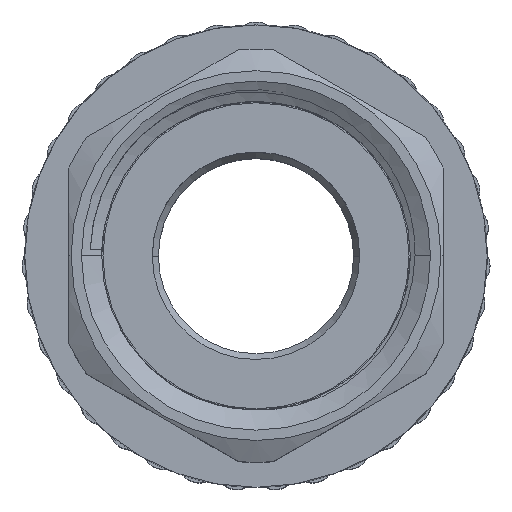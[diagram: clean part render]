
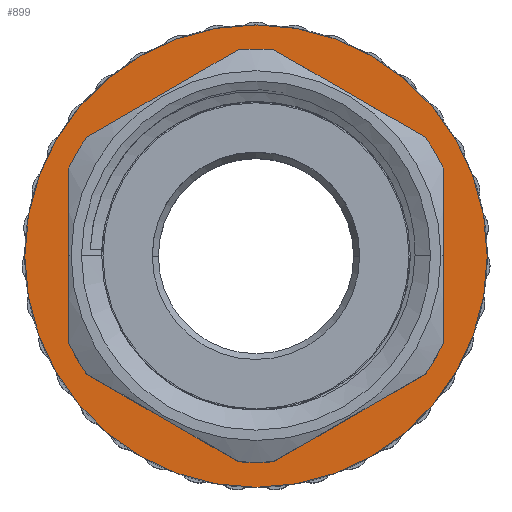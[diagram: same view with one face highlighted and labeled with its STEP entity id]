
A CAD part, top view. The second image highlights one B-rep face of the part: STEP entity #899.
In plain terms, the highlighted planar face has unit normal (0, 0, 1).
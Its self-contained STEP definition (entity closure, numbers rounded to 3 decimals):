
#820 = CARTESIAN_POINT ( 'NONE',  ( 0., 0., 0. ) ) ;
#899 = ADVANCED_FACE ( 'NONE', ( #1398, #10390 ), #7141, .F. ) ;
#939 = AXIS2_PLACEMENT_3D ( 'NONE', #8788, #1267, #3091 ) ;
#1267 = DIRECTION ( 'NONE',  ( 0., 0., 1. ) ) ;
#1309 = VERTEX_POINT ( 'NONE', #6572 ) ;
#1398 = FACE_BOUND ( 'NONE', #6413, .T. ) ;
#1561 = CARTESIAN_POINT ( 'NONE',  ( -22.85, 0., 0. ) ) ;
#2005 = CARTESIAN_POINT ( 'NONE',  ( 0., 22.85, 0. ) ) ;
#2048 = ORIENTED_EDGE ( 'NONE', *, *, #2439, .F. ) ;
#2065 = DIRECTION ( 'NONE',  ( 0., 0., -1. ) ) ;
#2196 = DIRECTION ( 'NONE',  ( 0., 0., 1. ) ) ;
#2439 = EDGE_CURVE ( 'NONE', #1309, #6585, #6550, .T. ) ;
#2848 = DIRECTION ( 'NONE',  ( 0., 0., 1. ) ) ;
#3091 = DIRECTION ( 'NONE',  ( 1., 0., 0. ) ) ;
#3097 = CIRCLE ( 'NONE', #6046, 22.85 ) ;
#3846 = CARTESIAN_POINT ( 'NONE',  ( 0., 0., 0. ) ) ;
#4056 = DIRECTION ( 'NONE',  ( 1., 0., 0. ) ) ;
#4422 = CARTESIAN_POINT ( 'NONE',  ( 0., 0., 0. ) ) ;
#4657 = DIRECTION ( 'NONE',  ( -1., 0., 0. ) ) ;
#4880 = VERTEX_POINT ( 'NONE', #5218 ) ;
#4918 = EDGE_LOOP ( 'NONE', ( #8749, #6116 ) ) ;
#5218 = CARTESIAN_POINT ( 'NONE',  ( 22.85, 0., 0. ) ) ;
#5611 = AXIS2_PLACEMENT_3D ( 'NONE', #2005, #2065, #8051 ) ;
#5657 = CIRCLE ( 'NONE', #939, 22.85 ) ;
#5957 = EDGE_CURVE ( 'NONE', #4880, #9946, #5657, .T. ) ;
#6046 = AXIS2_PLACEMENT_3D ( 'NONE', #820, #7490, #4056 ) ;
#6116 = ORIENTED_EDGE ( 'NONE', *, *, #7444, .T. ) ;
#6413 = EDGE_LOOP ( 'NONE', ( #9665, #2048 ) ) ;
#6550 = CIRCLE ( 'NONE', #7937, 12.65 ) ;
#6572 = CARTESIAN_POINT ( 'NONE',  ( -12.65, 0., 0. ) ) ;
#6585 = VERTEX_POINT ( 'NONE', #8263 ) ;
#7141 = PLANE ( 'NONE',  #5611 ) ;
#7444 = EDGE_CURVE ( 'NONE', #9946, #4880, #3097, .T. ) ;
#7490 = DIRECTION ( 'NONE',  ( 0., 0., 1. ) ) ;
#7578 = CIRCLE ( 'NONE', #8090, 12.65 ) ;
#7740 = DIRECTION ( 'NONE',  ( -1., 0., 0. ) ) ;
#7937 = AXIS2_PLACEMENT_3D ( 'NONE', #3846, #2196, #4657 ) ;
#8043 = EDGE_CURVE ( 'NONE', #6585, #1309, #7578, .T. ) ;
#8051 = DIRECTION ( 'NONE',  ( -1., 0., 0. ) ) ;
#8090 = AXIS2_PLACEMENT_3D ( 'NONE', #4422, #2848, #7740 ) ;
#8263 = CARTESIAN_POINT ( 'NONE',  ( 12.65, 0., 0. ) ) ;
#8749 = ORIENTED_EDGE ( 'NONE', *, *, #5957, .T. ) ;
#8788 = CARTESIAN_POINT ( 'NONE',  ( 0., 0., 0. ) ) ;
#9665 = ORIENTED_EDGE ( 'NONE', *, *, #8043, .F. ) ;
#9946 = VERTEX_POINT ( 'NONE', #1561 ) ;
#10390 = FACE_OUTER_BOUND ( 'NONE', #4918, .T. ) ;
